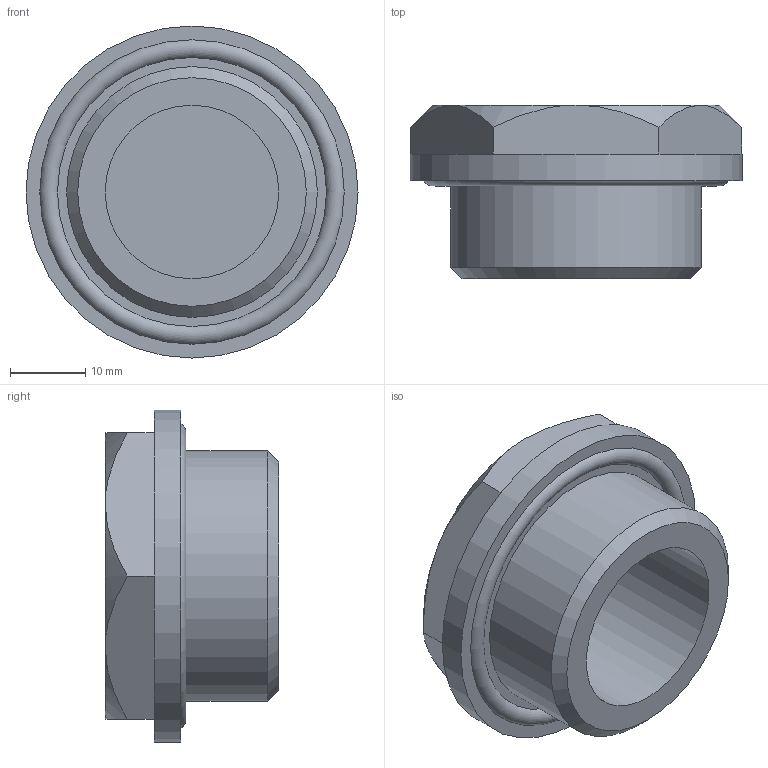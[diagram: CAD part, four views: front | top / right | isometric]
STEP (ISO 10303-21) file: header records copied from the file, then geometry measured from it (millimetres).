
FILE_DESCRIPTION( ( 'STEP AP203' ), '1' );
FILE_NAME( 'C:/Temp/Ganter_Step_05_03_2020/data/3_5/gn740_2/Threaded plug GN 740.2-G1.stp', '2020-03-12T13:43:56', ( 'License CC BY-ND 4.0' ), ( 'CADENAS' ), ' ', 'PARTsolutions', ' ' );
FILE_SCHEMA( ( 'CONFIG_CONTROL_DESIGN' ) );
Length unit declared in the file: millimetre
Products named in the file (1): _Threaded plug GN 740.2-G1
Bounding box: 44 x 23 x 44 mm (x, y, z)
Volume: 17213.6 mm3; surface area: 6919 mm2
Topology: 1 solids, 1 shells, 52 faces, 124 edges, 81 vertices
Faces by surface type: plane 40, cone 7, cylinder 4, torus 1
Full cylindrical faces by diameter (mm): 23 x1, 31 x1, 33.249 x1, 44 x1
Entity records: 1549 total; most frequent: CARTESIAN_POINT 340, ORIENTED_EDGE 232, DIRECTION 227, EDGE_CURVE 116, LINE 87, VECTOR 87, VERTEX_POINT 79, AXIS2_PLACEMENT_3D 70
